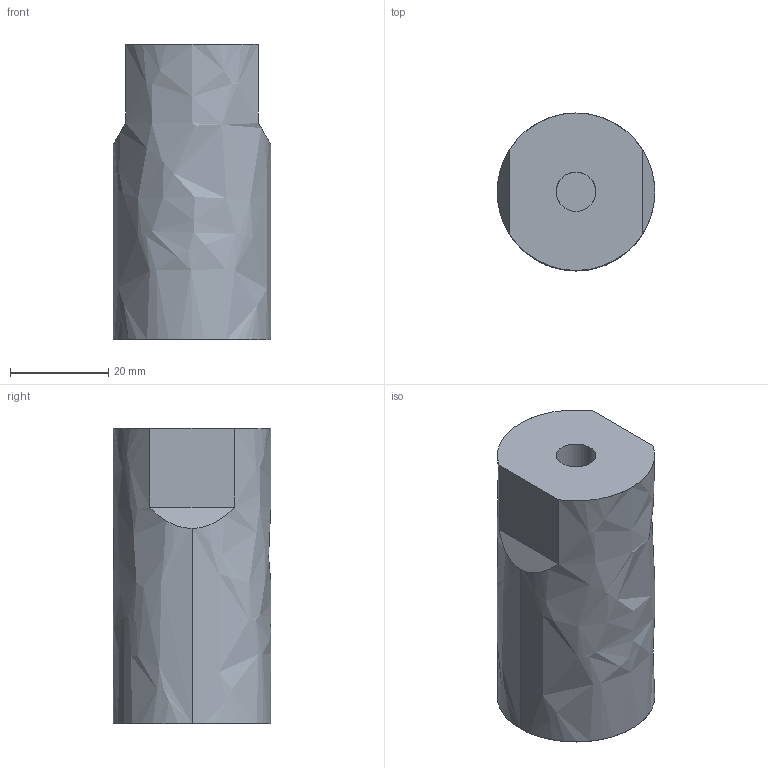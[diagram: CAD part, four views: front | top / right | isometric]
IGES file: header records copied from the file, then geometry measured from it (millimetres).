
Global section: file name: E:\UnigraphicsGraphicData\MISUMI_PRESS-PARTS\IGES\3d_sbvm32-60-r_00163_r00.igs; native system: NX V5.0; preprocessor: UGS NX IGES V5.0; author: MISUMI; date: 20110105.162513; units: millimetre
Bounding box: 32 x 32 x 60 mm (x, y, z)
Surface area: 7969.3 mm2 (no closed solid volume)
Topology: 0 solids, 0 shells, 11 faces, 80 edges, 80 vertices
Faces by surface type: bspline 11
